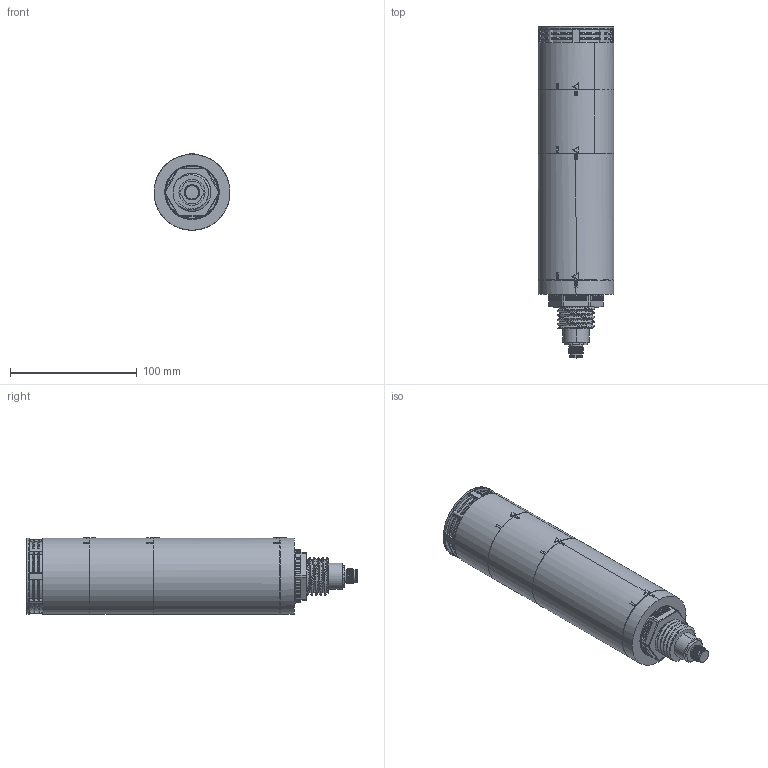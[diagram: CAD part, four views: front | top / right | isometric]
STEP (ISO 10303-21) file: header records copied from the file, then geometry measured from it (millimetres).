
FILE_DESCRIPTION (( 'STEP AP203' ), '1' );
FILE_NAME ('QTR60L-IOL-HBZ-1-R-3D_250422.STEP', '2025-07-30T08:26:49', ( '' ), ( '' ), 'SwSTEP 2.0', 'SolidWorks 2019', '' );
FILE_SCHEMA (( 'CONFIG_CONTROL_DESIGN' ));
Length unit declared in the file: millimetre
Products named in the file (4): QTR60L-IOL-HBZ-1-R-3D_250422; QTC60 GLOBE; 餌獄 MTG60-BS-DC-M12^QTR60L-IOL-HBZ-1-R-3D_250422; QTG60 HBZ
Assembly tree (3 placements, depth 2):
  QTR60L-IOL-HBZ-1-R-3D_250422
    餌獄 MTG60-BS-DC-M12^QTR60L-IOL-HBZ-1-R-3D_250422
    QTC60 GLOBE
    QTG60 HBZ
Bounding box: 60 x 262.3 x 60.5 mm (x, y, z)
Volume: 639252.8 mm3; surface area: 65592 mm2
Topology: 3 solids, 4 shells, 637 faces, 1780 edges, 1168 vertices
Faces by surface type: cylinder 436, plane 126, bspline 29, cone 18, torus 16, sphere 12
Entity records: 28859 total; most frequent: CARTESIAN_POINT 11754, DIRECTION 3697, ORIENTED_EDGE 3560, EDGE_CURVE 1780, AXIS2_PLACEMENT_3D 1509, VERTEX_POINT 1168, CIRCLE 895, VECTOR 679
